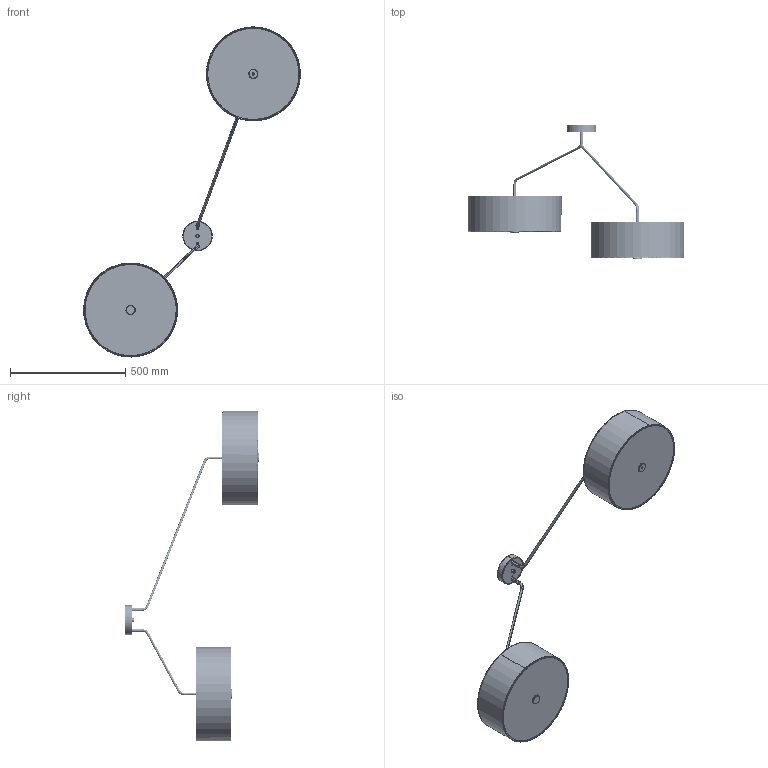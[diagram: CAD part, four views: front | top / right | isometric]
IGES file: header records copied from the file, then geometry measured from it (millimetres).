
Start section: SolidWorks IGES file using analytic representation for surfaces
Global section: file name: F:\GABRYSIA\MODELE 3D\HAWK_6541_8843_WWW\HAWK_6541_8843.IGS; native system: SolidWorks 2017; preprocessor: SolidWorks 2017; author: Togambi; date: 200616.072505; units: millimetre
Bounding box: 938.39 x 582.36 x 1429.63 mm (x, y, z)
Surface area: 1717818 mm2 (no closed solid volume)
Topology: 0 solids, 0 shells, 941 faces, 20130 edges, 20130 vertices
Faces by surface type: revolution 576, bspline 365
